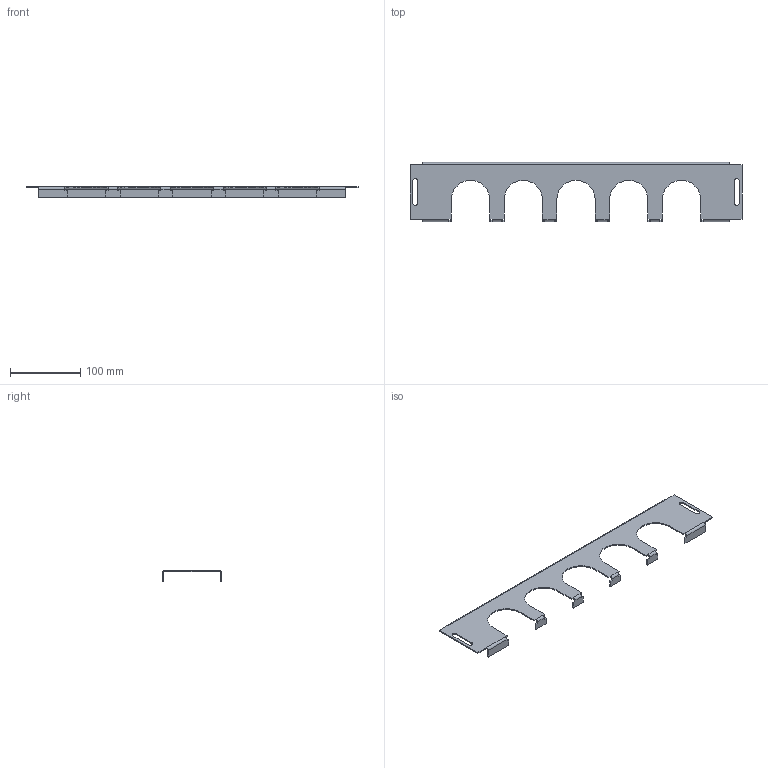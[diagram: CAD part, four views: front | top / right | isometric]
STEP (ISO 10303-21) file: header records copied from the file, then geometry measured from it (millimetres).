
FILE_DESCRIPTION(('STEP AP203'), '1');
FILE_NAME('Ïàíåëü êàáåëüíîãî ââîäà Ø6001200 ìì OptiBox M 419761 ÊÝÀÇ', '', ('UNSPECIFIED'), ('UNSPECIFIED'), 'C3D Converter', 'C3D Toolkit', '');
FILE_SCHEMA(('CONFIG_CONTROL_DESIGN'));
Length unit declared in the file: millimetre
Bounding box: 472 x 84 x 15 mm (x, y, z)
Volume: 47787.1 mm3; surface area: 66704.4 mm2
Topology: 1 solids, 1 shells, 110 faces, 296 edges, 188 vertices
Faces by surface type: plane 87, cylinder 23
Entity records: 3430 total; most frequent: CARTESIAN_POINT 595, ORIENTED_EDGE 592, DIRECTION 564, EDGE_CURVE 296, LINE 250, VECTOR 250, VERTEX_POINT 188, AXIS2_PLACEMENT_3D 157
